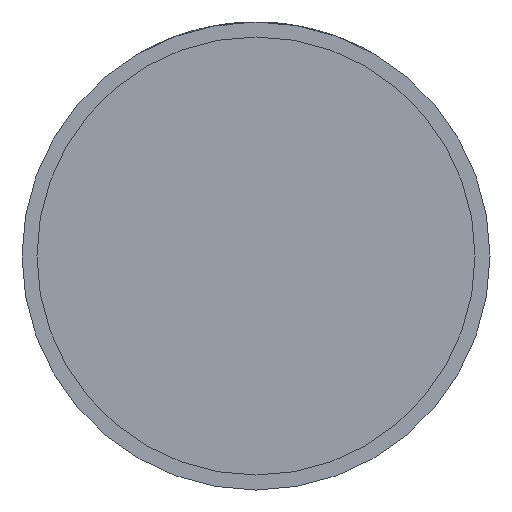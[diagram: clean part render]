
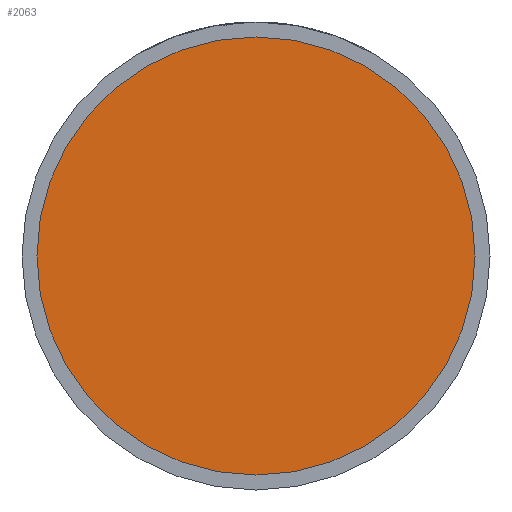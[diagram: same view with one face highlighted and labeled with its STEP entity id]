
A CAD part, front view. The second image highlights one B-rep face of the part: STEP entity #2063.
In plain terms, the highlighted planar face has unit normal (0, -1, 0).
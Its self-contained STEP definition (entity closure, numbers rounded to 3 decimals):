
#318 = CIRCLE ( 'NONE', #2744, 33.7 ) ;
#336 = AXIS2_PLACEMENT_3D ( 'NONE', #3482, #3796, #2421 ) ;
#457 = PLANE ( 'NONE',  #336 ) ;
#612 = EDGE_CURVE ( 'NONE', #1704, #2905, #2193, .T. ) ;
#629 = CARTESIAN_POINT ( 'NONE',  ( 33.7, -20., 0. ) ) ;
#854 = EDGE_CURVE ( 'NONE', #2905, #1704, #318, .T. ) ;
#1103 = FACE_OUTER_BOUND ( 'NONE', #4003, .T. ) ;
#1317 = DIRECTION ( 'NONE',  ( 0., -1., 0. ) ) ;
#1586 = DIRECTION ( 'NONE',  ( 0., -1., 0. ) ) ;
#1704 = VERTEX_POINT ( 'NONE', #629 ) ;
#1721 = CARTESIAN_POINT ( 'NONE',  ( -33.7, -20., 0. ) ) ;
#1949 = DIRECTION ( 'NONE',  ( 1., 0., 0. ) ) ;
#2063 = ADVANCED_FACE ( 'NONE', ( #1103 ), #457, .T. ) ;
#2193 = CIRCLE ( 'NONE', #4203, 33.7 ) ;
#2421 = DIRECTION ( 'NONE',  ( 1., 0., 0. ) ) ;
#2744 = AXIS2_PLACEMENT_3D ( 'NONE', #4179, #1317, #1949 ) ;
#2844 = DIRECTION ( 'NONE',  ( 1., 0., 0. ) ) ;
#2905 = VERTEX_POINT ( 'NONE', #1721 ) ;
#2982 = ORIENTED_EDGE ( 'NONE', *, *, #612, .T. ) ;
#3482 = CARTESIAN_POINT ( 'NONE',  ( 33.7, -20., 0. ) ) ;
#3564 = CARTESIAN_POINT ( 'NONE',  ( 0., -20., 0. ) ) ;
#3796 = DIRECTION ( 'NONE',  ( 0., -1., 0. ) ) ;
#4003 = EDGE_LOOP ( 'NONE', ( #2982, #4164 ) ) ;
#4164 = ORIENTED_EDGE ( 'NONE', *, *, #854, .T. ) ;
#4179 = CARTESIAN_POINT ( 'NONE',  ( 0., -20., 0. ) ) ;
#4203 = AXIS2_PLACEMENT_3D ( 'NONE', #3564, #1586, #2844 ) ;
